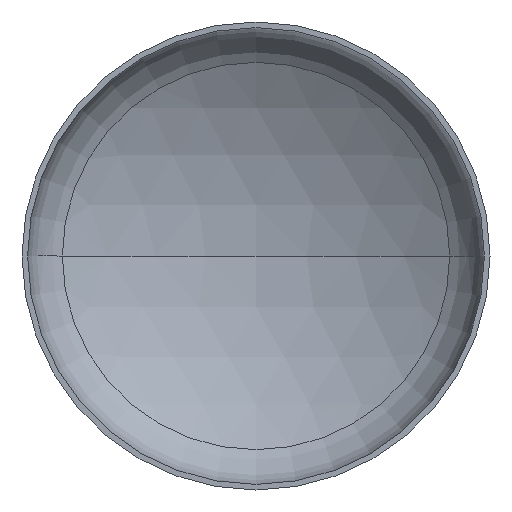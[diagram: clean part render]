
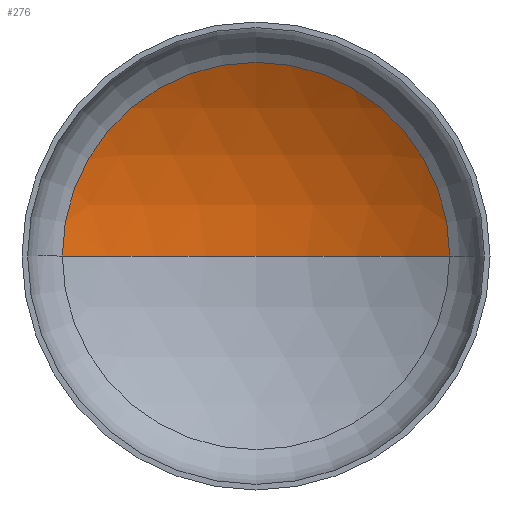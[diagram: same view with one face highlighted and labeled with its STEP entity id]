
A CAD part, front view. The second image highlights one B-rep face of the part: STEP entity #276.
In plain terms, the highlighted spherical face has radius 4400 mm.
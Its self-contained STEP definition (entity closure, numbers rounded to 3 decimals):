
#11 = VERTEX_POINT ( 'NONE', #363 ) ;
#50 = CIRCLE ( 'NONE', #135, 4400. ) ;
#55 = VERTEX_POINT ( 'NONE', #340 ) ;
#66 = CIRCLE ( 'NONE', #143, 2276.118 ) ;
#68 = AXIS2_PLACEMENT_3D ( 'NONE', #139, #396, #345 ) ;
#71 = ORIENTED_EDGE ( 'NONE', *, *, #219, .T. ) ;
#74 = DIRECTION ( 'NONE',  ( 0., 0., 1. ) ) ;
#80 = ORIENTED_EDGE ( 'NONE', *, *, #227, .T. ) ;
#97 = VERTEX_POINT ( 'NONE', #339 ) ;
#118 = AXIS2_PLACEMENT_3D ( 'NONE', #291, #74, #315 ) ;
#135 = AXIS2_PLACEMENT_3D ( 'NONE', #299, #320, #217 ) ;
#139 = CARTESIAN_POINT ( 'NONE',  ( 0., -2922.385, 0. ) ) ;
#143 = AXIS2_PLACEMENT_3D ( 'NONE', #371, #222, #325 ) ;
#196 = EDGE_LOOP ( 'NONE', ( #338, #80, #71 ) ) ;
#217 = DIRECTION ( 'NONE',  ( -1., 0., 0. ) ) ;
#219 = EDGE_CURVE ( 'NONE', #55, #97, #66, .T. ) ;
#222 = DIRECTION ( 'NONE',  ( 0., -1., 0. ) ) ;
#227 = EDGE_CURVE ( 'NONE', #11, #55, #50, .T. ) ;
#230 = EDGE_CURVE ( 'NONE', #11, #97, #361, .T. ) ;
#276 = ADVANCED_FACE ( 'NONE', ( #289 ), #282, .F. ) ;
#282 = SPHERICAL_SURFACE ( 'NONE', #68, 4400. ) ;
#289 = FACE_OUTER_BOUND ( 'NONE', #196, .T. ) ;
#291 = CARTESIAN_POINT ( 'NONE',  ( 0., -2922.385, 0. ) ) ;
#299 = CARTESIAN_POINT ( 'NONE',  ( 0., -2922.385, 0. ) ) ;
#315 = DIRECTION ( 'NONE',  ( 1., 0., 0. ) ) ;
#320 = DIRECTION ( 'NONE',  ( 0., 0., -1. ) ) ;
#325 = DIRECTION ( 'NONE',  ( 1., 0., 0. ) ) ;
#338 = ORIENTED_EDGE ( 'NONE', *, *, #230, .F. ) ;
#339 = CARTESIAN_POINT ( 'NONE',  ( -2276.118, 843.155, 0. ) ) ;
#340 = CARTESIAN_POINT ( 'NONE',  ( 2276.118, 843.155, 0. ) ) ;
#345 = DIRECTION ( 'NONE',  ( -1., 0., 0. ) ) ;
#361 = CIRCLE ( 'NONE', #118, 4400. ) ;
#363 = CARTESIAN_POINT ( 'NONE',  ( 0., 1477.615, 0. ) ) ;
#371 = CARTESIAN_POINT ( 'NONE',  ( 0., 843.155, 0. ) ) ;
#396 = DIRECTION ( 'NONE',  ( 0., 0., -1. ) ) ;
